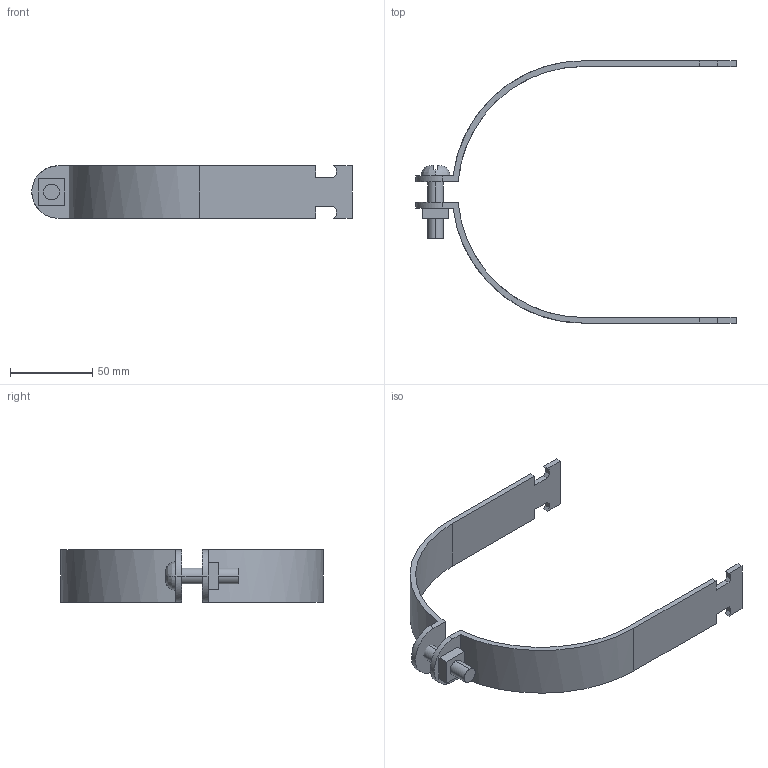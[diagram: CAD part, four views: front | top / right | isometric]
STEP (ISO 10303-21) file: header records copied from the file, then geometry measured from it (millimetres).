
FILE_DESCRIPTION(('TurboCAD Mac Pro'),'Build 980');
FILE_NAME('P2070.stp',' ',(''),(''),'ACIS Interop','IMSI','TurboCAD Mac Pro BY IMSI, INCORPORATED');
FILE_SCHEMA(('automotive_design'));
Length unit declared in the file: inch
Products named in the file (5): 1; 2; 3; 4; 5
Bounding box: 194.47 x 159.33 x 31.75 mm (x, y, z)
Volume: 53409.3 mm3; surface area: 34804.4 mm2
Topology: 4 solids, 4 shells, 71 faces, 186 edges, 124 vertices
Faces by surface type: plane 51, bspline 20
Entity records: 3487 total; most frequent: CARTESIAN_POINT 1050, ORIENTED_EDGE 372, DIRECTION 258, EDGE_CURVE 186, LINE 138, VECTOR 138, VERTEX_POINT 124, STYLED_ITEM 91
